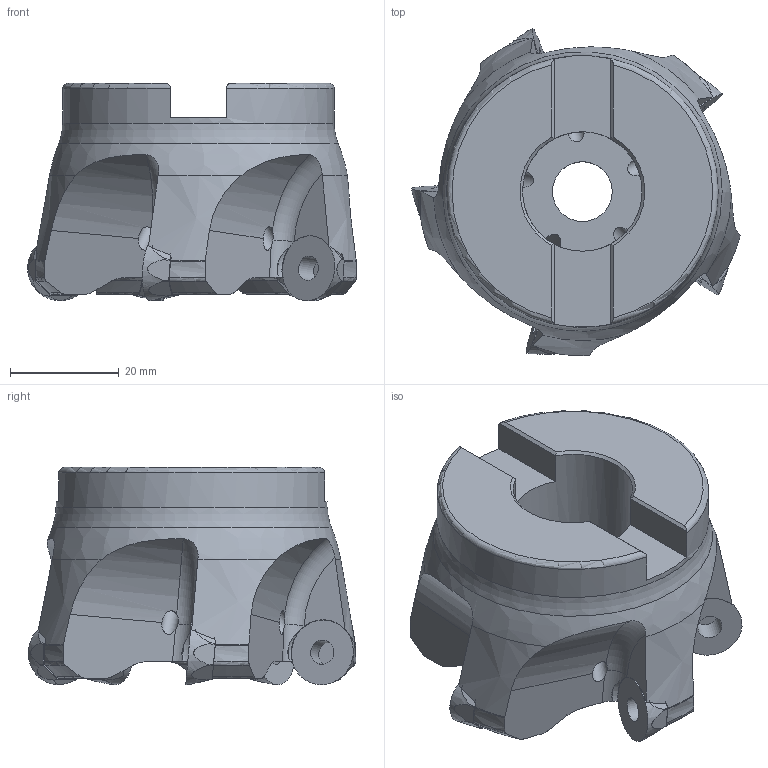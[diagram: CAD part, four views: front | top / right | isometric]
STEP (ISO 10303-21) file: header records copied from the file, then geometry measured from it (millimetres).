
FILE_DESCRIPTION(/* description */ (''),/* implementation_level */ '2;1');
FILE_NAME(/* name */ 'FMRCM4063HRP-5-HAAS_211209.stp',/* time_stamp */ '2021-12-09T15:14:17+09:00',/* author */ (''),/* organization */ (''),/* preprocessor_version */ 'ST-DEVELOPER v16',/* originating_system */ 'SIEMENS PLM Software NX 10.0',/* authorisation */ '');
FILE_SCHEMA (('AUTOMOTIVE_DESIGN { 1 0 10303 214 3 1 1 1 }'));
Length unit declared in the file: millimetre
Products named in the file (1): user583C6A71u365
Bounding box: 60.49 x 60.25 x 40 mm (x, y, z)
Volume: 58659.9 mm3; surface area: 15556.5 mm2
Topology: 6 solids, 6 shells, 234 faces, 793 edges, 563 vertices
Faces by surface type: plane 86, cylinder 75, torus 44, cone 28, bspline 1
Full cylindrical faces by diameter (mm): 3 x5, 4.5 x5, 11 x1, 18 x1, 22 x1, 23 x1, 50 x1
Entity records: 11330 total; most frequent: CARTESIAN_POINT 3889, ORIENTED_EDGE 1498, DIRECTION 1347, EDGE_CURVE 749, AXIS2_PLACEMENT_3D 586, VERTEX_POINT 543, EDGE_LOOP 272, CIRCLE 247
